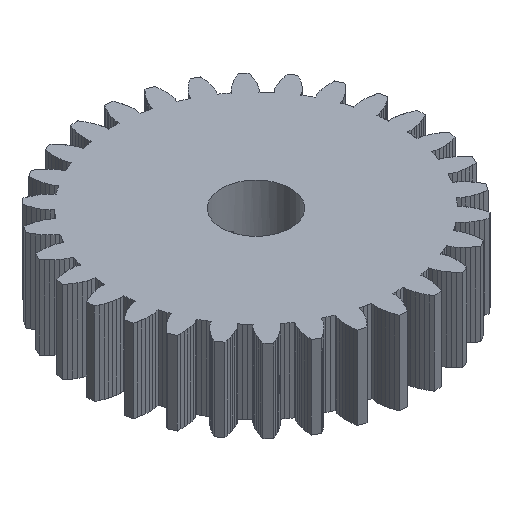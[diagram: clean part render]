
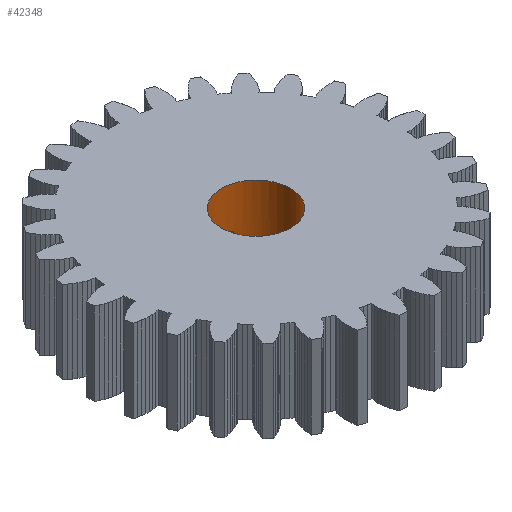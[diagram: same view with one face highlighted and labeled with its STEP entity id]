
A CAD part, isometric view. The second image highlights one B-rep face of the part: STEP entity #42348.
In plain terms, the highlighted cylindrical face has radius 5 mm (diameter 10 mm), a full revolution.
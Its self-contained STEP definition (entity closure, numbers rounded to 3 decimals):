
#90 = PLANE('',#91);
#91 = AXIS2_PLACEMENT_3D('',#92,#93,#94);
#92 = CARTESIAN_POINT('',(0.,0.,18.));
#93 = DIRECTION('',(0.,0.,1.));
#94 = DIRECTION('',(1.,0.,-0.));
#144 = PLANE('',#145);
#145 = AXIS2_PLACEMENT_3D('',#146,#147,#148);
#146 = CARTESIAN_POINT('',(0.,0.,6.));
#147 = DIRECTION('',(0.,0.,1.));
#148 = DIRECTION('',(1.,0.,-0.));
#15340 = EDGE_CURVE('',#15341,#15343,#15345,.T.);
#15341 = VERTEX_POINT('',#15342);
#15342 = CARTESIAN_POINT('',(1.5,4.77,6.));
#15343 = VERTEX_POINT('',#15344);
#15344 = CARTESIAN_POINT('',(5.,0.,6.));
#15345 = SURFACE_CURVE('',#15346,(#15351,#15362),.PCURVE_S1.);
#15346 = CIRCLE('',#15347,5.);
#15347 = AXIS2_PLACEMENT_3D('',#15348,#15349,#15350);
#15348 = CARTESIAN_POINT('',(0.,0.,6.));
#15349 = DIRECTION('',(0.,0.,-1.));
#15350 = DIRECTION('',(1.,0.,0.));
#15351 = PCURVE('',#144,#15352);
#15352 = DEFINITIONAL_REPRESENTATION('',(#15353),#15361);
#15353 = ( BOUNDED_CURVE() B_SPLINE_CURVE(2,(#15354,#15355,#15356,#15357
    ,#15358,#15359,#15360),.UNSPECIFIED.,.T.,.F.) 
B_SPLINE_CURVE_WITH_KNOTS((1,2,2,2,2,1),(-2.094,0.,
    2.094,4.189,6.283,8.378),
.UNSPECIFIED.) CURVE() GEOMETRIC_REPRESENTATION_ITEM() 
RATIONAL_B_SPLINE_CURVE((1.,0.5,1.,0.5,1.,0.5,1.)) REPRESENTATION_ITEM(
  '') );
#15354 = CARTESIAN_POINT('',(5.,0.));
#15355 = CARTESIAN_POINT('',(5.,-8.66));
#15356 = CARTESIAN_POINT('',(-2.5,-4.33));
#15357 = CARTESIAN_POINT('',(-10.,0.));
#15358 = CARTESIAN_POINT('',(-2.5,4.33));
#15359 = CARTESIAN_POINT('',(5.,8.66));
#15360 = CARTESIAN_POINT('',(5.,0.));
#15361 = ( GEOMETRIC_REPRESENTATION_CONTEXT(2) 
PARAMETRIC_REPRESENTATION_CONTEXT() REPRESENTATION_CONTEXT('2D SPACE',''
  ) );
#15362 = PCURVE('',#15363,#15368);
#15363 = CYLINDRICAL_SURFACE('',#15364,5.);
#15364 = AXIS2_PLACEMENT_3D('',#15365,#15366,#15367);
#15365 = CARTESIAN_POINT('',(0.,0.,5.));
#15366 = DIRECTION('',(-0.,-0.,-1.));
#15367 = DIRECTION('',(1.,0.,0.));
#15368 = DEFINITIONAL_REPRESENTATION('',(#15369),#15373);
#15369 = LINE('',#15370,#15371);
#15370 = CARTESIAN_POINT('',(-6.283,-1.));
#15371 = VECTOR('',#15372,1.);
#15372 = DIRECTION('',(1.,-0.));
#15373 = ( GEOMETRIC_REPRESENTATION_CONTEXT(2) 
PARAMETRIC_REPRESENTATION_CONTEXT() REPRESENTATION_CONTEXT('2D SPACE',''
  ) );
#15375 = EDGE_CURVE('',#15343,#15376,#15378,.T.);
#15376 = VERTEX_POINT('',#15377);
#15377 = CARTESIAN_POINT('',(-1.5,4.77,6.));
#15378 = SURFACE_CURVE('',#15379,(#15384,#15395),.PCURVE_S1.);
#15379 = CIRCLE('',#15380,5.);
#15380 = AXIS2_PLACEMENT_3D('',#15381,#15382,#15383);
#15381 = CARTESIAN_POINT('',(0.,0.,6.));
#15382 = DIRECTION('',(0.,0.,-1.));
#15383 = DIRECTION('',(1.,0.,0.));
#15384 = PCURVE('',#144,#15385);
#15385 = DEFINITIONAL_REPRESENTATION('',(#15386),#15394);
#15386 = ( BOUNDED_CURVE() B_SPLINE_CURVE(2,(#15387,#15388,#15389,#15390
    ,#15391,#15392,#15393),.UNSPECIFIED.,.T.,.F.) 
B_SPLINE_CURVE_WITH_KNOTS((1,2,2,2,2,1),(-2.094,0.,
    2.094,4.189,6.283,8.378),
.UNSPECIFIED.) CURVE() GEOMETRIC_REPRESENTATION_ITEM() 
RATIONAL_B_SPLINE_CURVE((1.,0.5,1.,0.5,1.,0.5,1.)) REPRESENTATION_ITEM(
  '') );
#15387 = CARTESIAN_POINT('',(5.,0.));
#15388 = CARTESIAN_POINT('',(5.,-8.66));
#15389 = CARTESIAN_POINT('',(-2.5,-4.33));
#15390 = CARTESIAN_POINT('',(-10.,0.));
#15391 = CARTESIAN_POINT('',(-2.5,4.33));
#15392 = CARTESIAN_POINT('',(5.,8.66));
#15393 = CARTESIAN_POINT('',(5.,0.));
#15394 = ( GEOMETRIC_REPRESENTATION_CONTEXT(2) 
PARAMETRIC_REPRESENTATION_CONTEXT() REPRESENTATION_CONTEXT('2D SPACE',''
  ) );
#15395 = PCURVE('',#15363,#15396);
#15396 = DEFINITIONAL_REPRESENTATION('',(#15397),#15401);
#15397 = LINE('',#15398,#15399);
#15398 = CARTESIAN_POINT('',(-6.283,-1.));
#15399 = VECTOR('',#15400,1.);
#15400 = DIRECTION('',(1.,-0.));
#15401 = ( GEOMETRIC_REPRESENTATION_CONTEXT(2) 
PARAMETRIC_REPRESENTATION_CONTEXT() REPRESENTATION_CONTEXT('2D SPACE',''
  ) );
#15419 = PLANE('',#15420);
#15420 = AXIS2_PLACEMENT_3D('',#15421,#15422,#15423);
#15421 = CARTESIAN_POINT('',(-1.5,5.75,0.));
#15422 = DIRECTION('',(1.,0.,-0.));
#15423 = DIRECTION('',(0.,-1.,0.));
#15473 = PLANE('',#15474);
#15474 = AXIS2_PLACEMENT_3D('',#15475,#15476,#15477);
#15475 = CARTESIAN_POINT('',(1.5,4.25,0.));
#15476 = DIRECTION('',(-1.,0.,0.));
#15477 = DIRECTION('',(0.,1.,0.));
#27842 = EDGE_CURVE('',#27843,#27843,#27845,.T.);
#27843 = VERTEX_POINT('',#27844);
#27844 = CARTESIAN_POINT('',(5.,0.,18.));
#27845 = SURFACE_CURVE('',#27846,(#27851,#27862),.PCURVE_S1.);
#27846 = CIRCLE('',#27847,5.);
#27847 = AXIS2_PLACEMENT_3D('',#27848,#27849,#27850);
#27848 = CARTESIAN_POINT('',(0.,0.,18.));
#27849 = DIRECTION('',(0.,0.,-1.));
#27850 = DIRECTION('',(1.,0.,0.));
#27851 = PCURVE('',#90,#27852);
#27852 = DEFINITIONAL_REPRESENTATION('',(#27853),#27861);
#27853 = ( BOUNDED_CURVE() B_SPLINE_CURVE(2,(#27854,#27855,#27856,#27857
    ,#27858,#27859,#27860),.UNSPECIFIED.,.T.,.F.) 
B_SPLINE_CURVE_WITH_KNOTS((1,2,2,2,2,1),(-2.094,0.,
    2.094,4.189,6.283,8.378),
.UNSPECIFIED.) CURVE() GEOMETRIC_REPRESENTATION_ITEM() 
RATIONAL_B_SPLINE_CURVE((1.,0.5,1.,0.5,1.,0.5,1.)) REPRESENTATION_ITEM(
  '') );
#27854 = CARTESIAN_POINT('',(5.,0.));
#27855 = CARTESIAN_POINT('',(5.,-8.66));
#27856 = CARTESIAN_POINT('',(-2.5,-4.33));
#27857 = CARTESIAN_POINT('',(-10.,0.));
#27858 = CARTESIAN_POINT('',(-2.5,4.33));
#27859 = CARTESIAN_POINT('',(5.,8.66));
#27860 = CARTESIAN_POINT('',(5.,0.));
#27861 = ( GEOMETRIC_REPRESENTATION_CONTEXT(2) 
PARAMETRIC_REPRESENTATION_CONTEXT() REPRESENTATION_CONTEXT('2D SPACE',''
  ) );
#27862 = PCURVE('',#15363,#27863);
#27863 = DEFINITIONAL_REPRESENTATION('',(#27864),#27868);
#27864 = LINE('',#27865,#27866);
#27865 = CARTESIAN_POINT('',(-6.283,-13.));
#27866 = VECTOR('',#27867,1.);
#27867 = DIRECTION('',(1.,-0.));
#27868 = ( GEOMETRIC_REPRESENTATION_CONTEXT(2) 
PARAMETRIC_REPRESENTATION_CONTEXT() REPRESENTATION_CONTEXT('2D SPACE',''
  ) );
#42348 = ADVANCED_FACE('',(#42349),#15363,.F.);
#42349 = FACE_BOUND('',#42350,.T.);
#42350 = EDGE_LOOP('',(#42351,#42372,#42373,#42396,#42429,#42450,#42451,
    #42452));
#42351 = ORIENTED_EDGE('',*,*,#42352,.F.);
#42352 = EDGE_CURVE('',#15343,#27843,#42353,.T.);
#42353 = SEAM_CURVE('',#42354,(#42358,#42365),.PCURVE_S1.);
#42354 = LINE('',#42355,#42356);
#42355 = CARTESIAN_POINT('',(5.,0.,5.));
#42356 = VECTOR('',#42357,1.);
#42357 = DIRECTION('',(0.,0.,1.));
#42358 = PCURVE('',#15363,#42359);
#42359 = DEFINITIONAL_REPRESENTATION('',(#42360),#42364);
#42360 = LINE('',#42361,#42362);
#42361 = CARTESIAN_POINT('',(-6.283,0.));
#42362 = VECTOR('',#42363,1.);
#42363 = DIRECTION('',(-0.,-1.));
#42364 = ( GEOMETRIC_REPRESENTATION_CONTEXT(2) 
PARAMETRIC_REPRESENTATION_CONTEXT() REPRESENTATION_CONTEXT('2D SPACE',''
  ) );
#42365 = PCURVE('',#15363,#42366);
#42366 = DEFINITIONAL_REPRESENTATION('',(#42367),#42371);
#42367 = LINE('',#42368,#42369);
#42368 = CARTESIAN_POINT('',(-0.,0.));
#42369 = VECTOR('',#42370,1.);
#42370 = DIRECTION('',(-0.,-1.));
#42371 = ( GEOMETRIC_REPRESENTATION_CONTEXT(2) 
PARAMETRIC_REPRESENTATION_CONTEXT() REPRESENTATION_CONTEXT('2D SPACE',''
  ) );
#42372 = ORIENTED_EDGE('',*,*,#15375,.T.);
#42373 = ORIENTED_EDGE('',*,*,#42374,.F.);
#42374 = EDGE_CURVE('',#42375,#15376,#42377,.T.);
#42375 = VERTEX_POINT('',#42376);
#42376 = CARTESIAN_POINT('',(-1.5,4.77,12.));
#42377 = SURFACE_CURVE('',#42378,(#42382,#42389),.PCURVE_S1.);
#42378 = LINE('',#42379,#42380);
#42379 = CARTESIAN_POINT('',(-1.5,4.77,5.));
#42380 = VECTOR('',#42381,1.);
#42381 = DIRECTION('',(-0.,-0.,-1.));
#42382 = PCURVE('',#15363,#42383);
#42383 = DEFINITIONAL_REPRESENTATION('',(#42384),#42388);
#42384 = LINE('',#42385,#42386);
#42385 = CARTESIAN_POINT('',(-1.875,0.));
#42386 = VECTOR('',#42387,1.);
#42387 = DIRECTION('',(-0.,1.));
#42388 = ( GEOMETRIC_REPRESENTATION_CONTEXT(2) 
PARAMETRIC_REPRESENTATION_CONTEXT() REPRESENTATION_CONTEXT('2D SPACE',''
  ) );
#42389 = PCURVE('',#15419,#42390);
#42390 = DEFINITIONAL_REPRESENTATION('',(#42391),#42395);
#42391 = LINE('',#42392,#42393);
#42392 = CARTESIAN_POINT('',(0.98,-5.));
#42393 = VECTOR('',#42394,1.);
#42394 = DIRECTION('',(0.,1.));
#42395 = ( GEOMETRIC_REPRESENTATION_CONTEXT(2) 
PARAMETRIC_REPRESENTATION_CONTEXT() REPRESENTATION_CONTEXT('2D SPACE',''
  ) );
#42396 = ORIENTED_EDGE('',*,*,#42397,.T.);
#42397 = EDGE_CURVE('',#42375,#42398,#42400,.T.);
#42398 = VERTEX_POINT('',#42399);
#42399 = CARTESIAN_POINT('',(1.5,4.77,12.));
#42400 = SURFACE_CURVE('',#42401,(#42406,#42413),.PCURVE_S1.);
#42401 = CIRCLE('',#42402,5.);
#42402 = AXIS2_PLACEMENT_3D('',#42403,#42404,#42405);
#42403 = CARTESIAN_POINT('',(0.,0.,12.));
#42404 = DIRECTION('',(0.,0.,-1.));
#42405 = DIRECTION('',(1.,0.,0.));
#42406 = PCURVE('',#15363,#42407);
#42407 = DEFINITIONAL_REPRESENTATION('',(#42408),#42412);
#42408 = LINE('',#42409,#42410);
#42409 = CARTESIAN_POINT('',(-6.283,-7.));
#42410 = VECTOR('',#42411,1.);
#42411 = DIRECTION('',(1.,-0.));
#42412 = ( GEOMETRIC_REPRESENTATION_CONTEXT(2) 
PARAMETRIC_REPRESENTATION_CONTEXT() REPRESENTATION_CONTEXT('2D SPACE',''
  ) );
#42413 = PCURVE('',#42414,#42419);
#42414 = PLANE('',#42415);
#42415 = AXIS2_PLACEMENT_3D('',#42416,#42417,#42418);
#42416 = CARTESIAN_POINT('',(0.,5.,12.));
#42417 = DIRECTION('',(0.,0.,1.));
#42418 = DIRECTION('',(1.,0.,-0.));
#42419 = DEFINITIONAL_REPRESENTATION('',(#42420),#42428);
#42420 = ( BOUNDED_CURVE() B_SPLINE_CURVE(2,(#42421,#42422,#42423,#42424
    ,#42425,#42426,#42427),.UNSPECIFIED.,.T.,.F.) 
B_SPLINE_CURVE_WITH_KNOTS((1,2,2,2,2,1),(-2.094,0.,
    2.094,4.189,6.283,8.378),
.UNSPECIFIED.) CURVE() GEOMETRIC_REPRESENTATION_ITEM() 
RATIONAL_B_SPLINE_CURVE((1.,0.5,1.,0.5,1.,0.5,1.)) REPRESENTATION_ITEM(
  '') );
#42421 = CARTESIAN_POINT('',(5.,-5.));
#42422 = CARTESIAN_POINT('',(5.,-13.66));
#42423 = CARTESIAN_POINT('',(-2.5,-9.33));
#42424 = CARTESIAN_POINT('',(-10.,-5.));
#42425 = CARTESIAN_POINT('',(-2.5,-0.67));
#42426 = CARTESIAN_POINT('',(5.,3.66));
#42427 = CARTESIAN_POINT('',(5.,-5.));
#42428 = ( GEOMETRIC_REPRESENTATION_CONTEXT(2) 
PARAMETRIC_REPRESENTATION_CONTEXT() REPRESENTATION_CONTEXT('2D SPACE',''
  ) );
#42429 = ORIENTED_EDGE('',*,*,#42430,.T.);
#42430 = EDGE_CURVE('',#42398,#15341,#42431,.T.);
#42431 = SURFACE_CURVE('',#42432,(#42436,#42443),.PCURVE_S1.);
#42432 = LINE('',#42433,#42434);
#42433 = CARTESIAN_POINT('',(1.5,4.77,5.));
#42434 = VECTOR('',#42435,1.);
#42435 = DIRECTION('',(-0.,-0.,-1.));
#42436 = PCURVE('',#15363,#42437);
#42437 = DEFINITIONAL_REPRESENTATION('',(#42438),#42442);
#42438 = LINE('',#42439,#42440);
#42439 = CARTESIAN_POINT('',(-1.266,0.));
#42440 = VECTOR('',#42441,1.);
#42441 = DIRECTION('',(-0.,1.));
#42442 = ( GEOMETRIC_REPRESENTATION_CONTEXT(2) 
PARAMETRIC_REPRESENTATION_CONTEXT() REPRESENTATION_CONTEXT('2D SPACE',''
  ) );
#42443 = PCURVE('',#15473,#42444);
#42444 = DEFINITIONAL_REPRESENTATION('',(#42445),#42449);
#42445 = LINE('',#42446,#42447);
#42446 = CARTESIAN_POINT('',(0.52,-5.));
#42447 = VECTOR('',#42448,1.);
#42448 = DIRECTION('',(0.,1.));
#42449 = ( GEOMETRIC_REPRESENTATION_CONTEXT(2) 
PARAMETRIC_REPRESENTATION_CONTEXT() REPRESENTATION_CONTEXT('2D SPACE',''
  ) );
#42450 = ORIENTED_EDGE('',*,*,#15340,.T.);
#42451 = ORIENTED_EDGE('',*,*,#42352,.T.);
#42452 = ORIENTED_EDGE('',*,*,#27842,.F.);
